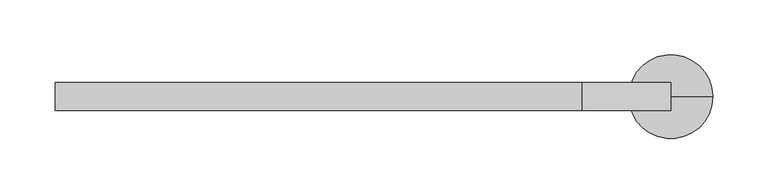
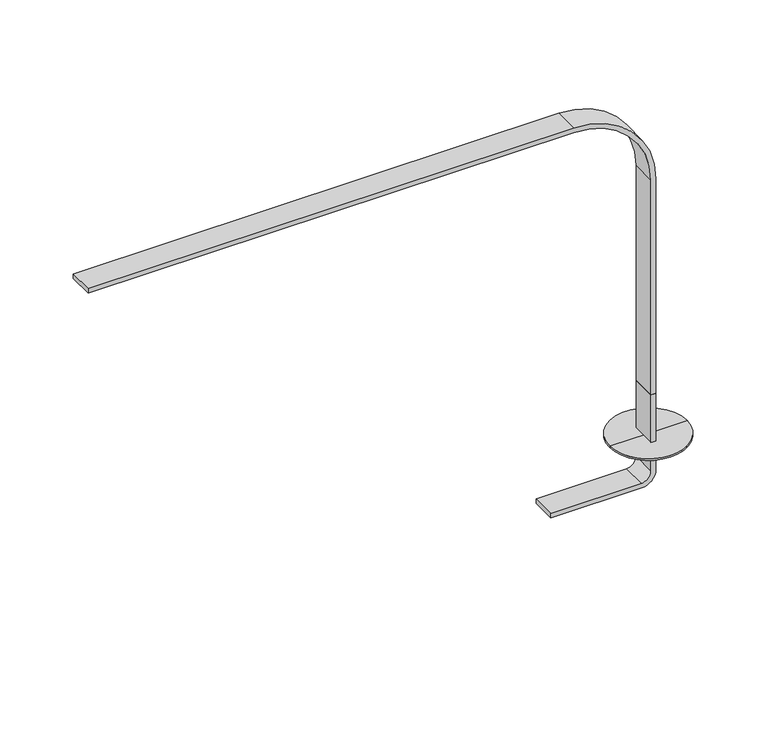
"""IFC4 building model written with IfcOpenShell, lengths in millimetres: light fixture geometry, Haworth_LIM_Light_CL : LLxx-0022 - Grommet Mount."""

from ifc_helpers import new_model, si_unit, point, frame, frame_2d, origin, place, context, project, spatial, polyline, circle_curve, trimmed, segment, composite_curve, outline, extrude, source, transform, mapped, element, save
from ifc_brep_helpers import plane_surface, cylinder_surface, advanced_brep


def light_fixture_0e5bb36a(model_context):
    return source(origin(), model_context, "Body", "SolidModel", [
        extrude(outline(composite_curve([segment(polyline([(698.5, -73.7588699), (693.7375, -73.7588699), (693.7375, 15.1411301)]), True, "CONTINUOUS"), segment(trimmed(circle_curve(frame_2d((708.025, 15.1411301)), 14.2875), [point((693.7375, 15.1411301))], [point((708.025, 29.4286301))], False, "CARTESIAN"), True, "CONTINUOUS"), segment(polyline([(708.025, 29.4286301), (787.4, 29.4286301), (787.4, 24.6661301), (708.025, 24.6661301)]), True, "CONTINUOUS"), segment(trimmed(circle_curve(frame_2d((708.025, 15.1411301)), 9.525), [point((708.025, 24.6661301))], [point((698.5, 15.1411301))], True, "CARTESIAN"), True, "CONTINUOUS"), segment(polyline([(698.5, 15.1411301), (698.5, -73.7588699)]), True, "CONTINUOUS")], self_intersect=False)), frame((0.0, 211.5532085, 0.0), z_axis=(0.0, 1.0, 0.0), x_axis=(0.0, 0.0, 1.0)), (0.0, 0.0, 1.0), 25.4),
        extrude(outline(composite_curve([segment(polyline([(1092.2, -529.3713699), (1087.4375, -529.3713699), (1087.4375, -51.5338699)]), True, "CONTINUOUS"), segment(trimmed(circle_curve(frame_2d((1011.2375, -51.5338699)), 76.2), [point((1087.4375, -51.5338699))], [point((1011.2375, 24.6661301))], True, "CARTESIAN"), True, "CONTINUOUS"), segment(polyline([(1011.2375, 24.6661301), (787.4, 24.6661301), (787.4, 29.4286301), (1011.2375, 29.4286301)]), True, "CONTINUOUS"), segment(trimmed(circle_curve(frame_2d((1011.2375, -51.5338699)), 80.9625), [point((1011.2375, 29.4286301))], [point((1092.2, -51.5338699))], False, "CARTESIAN"), True, "CONTINUOUS"), segment(polyline([(1092.2, -51.5338699), (1092.2, -529.3713699)]), True, "CONTINUOUS")], self_intersect=False)), frame((0.0, 211.5532085, 0.0), z_axis=(0.0, 1.0, 0.0), x_axis=(0.0, 0.0, 1.0)), (0.0, 0.0, 1.0), 25.4),
        advanced_brep(
        [(-8.6713699, 224.2532085, 736.6), (67.5286301, 224.2532085, 736.6), (29.4286301, 224.2532085, 736.6), (-8.6713699, 224.2532085, 738.1875), (67.5286301, 224.2532085, 738.1875), (29.4286301, 224.2532085, 738.1875)],
        [
            (0, 1, circle_curve(frame((29.4286301, 224.2532085, 736.6), z_axis=(0.0, 0.0, -1.0), x_axis=(1.0, 0.0, 0.0)), 38.1)),
            (1, 2),
            (2, 0),
            (1, 0, circle_curve(frame((29.4286301, 224.2532085, 736.6), z_axis=(0.0, 0.0, -1.0), x_axis=(1.0, 0.0, 0.0)), 38.1)),
            (3, 4, circle_curve(frame((29.4286301, 224.2532085, 738.1875), z_axis=(0.0, 0.0, -1.0), x_axis=(1.0, 0.0, 0.0)), 38.1)),
            (4, 1),
            (0, 3),
            (4, 3, circle_curve(frame((29.4286301, 224.2532085, 738.1875), z_axis=(0.0, 0.0, -1.0), x_axis=(1.0, 0.0, 0.0)), 38.1)),
            (5, 4),
            (3, 5),
        ],
        [
            plane_surface(frame((29.4286301, 224.2532085, 736.6), z_axis=(0.0, 0.0, -1.0), x_axis=(1.0, 0.0, 0.0))),
            cylinder_surface(frame((29.4286301, 224.2532085, 771.1186022), z_axis=(0.0, 0.0, 1.0), x_axis=(1.0, 0.0, 0.0)), 38.1),
            plane_surface(frame((29.4286301, 224.2532085, 738.1875), z_axis=(0.0, 0.0, 1.0), x_axis=(1.0, 0.0, 0.0))),
        ],
        [
            (0, [[1, 2, 3]]),
            (0, [[4, -3, -2]]),
            (1, [[5, 6, -1, 7]]),
            (1, [[8, -7, -4, -6]]),
            (2, [[9, -5, 10]]),
            (2, [[-10, -8, -9]]),
        ],
    ),
    ])


if __name__ == "__main__":
    model = new_model("IFC4")
    model_context = context("Model", 3, world=origin())
    ifc_project = project(units=[si_unit("LENGTHUNIT", "METRE", prefix="MILLI")], contexts=[model_context])
    site = spatial("IfcSite", under=ifc_project)
    building = spatial("IfcBuilding", under=site)
    placement = place(None, origin())
    light_fixture_shape = light_fixture_0e5bb36a(model_context)
    element("IfcLightFixture", 1, ObjectType="Haworth_LIM_Light_CL : LLxx-0022 - Grommet Mount", at=placement, inside=building, context=model_context, shape_type="MappedRepresentation", body=[
        mapped(light_fixture_shape, transform((0.0, 0.0, 0.0), x_axis=(1.0, 0.0, 0.0), y_axis=(0.0, 1.0, 0.0), z_axis=(0.0, 0.0, 1.0))),
    ])
    save(model, "model.ifc")
